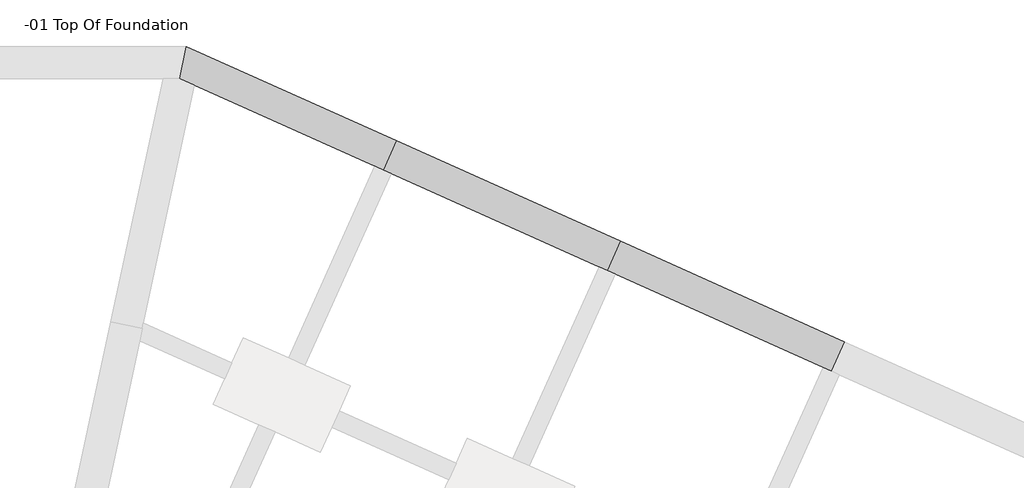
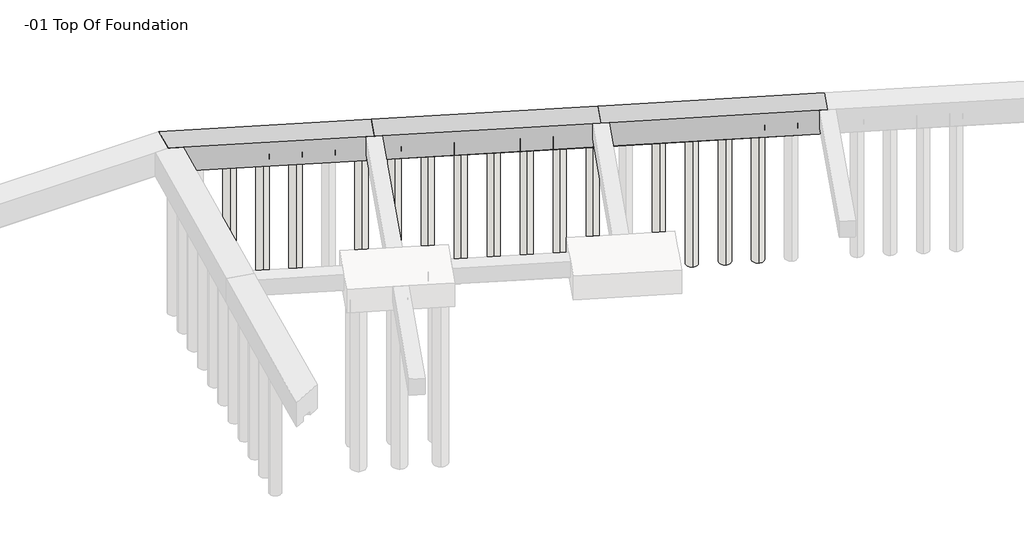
# One storey, part 5 of 6: 15 slabs, 3 beams.
"""IFC4 building model written with IfcOpenShell, lengths in millimetres."""

from ifc_helpers import new_model, si_unit, point, frame, frame_2d, origin, place, context, project, spatial, polyline, circle_curve, trimmed, segment, composite_curve, outline, extrude, element, save
from ifc_brep_helpers import plane_surface, revolved_surface, advanced_brep

model = new_model("IFC4")

# Units and contexts
model_context = context("Model", 3, world=origin())
ifc_project = project(units=[si_unit("LENGTHUNIT", "METRE", prefix="MILLI")], contexts=[model_context])

# Site, building, storey
site = spatial("IfcSite", under=ifc_project)
building = spatial("IfcBuilding", under=site)
storey = spatial("IfcBuildingStorey", under=building, Name="-01 Top Of Foundation", Elevation=-304.8)

# Beams
placement = place(None, origin())
element("IfcBeam", 1, ObjectType="Ring Beam : 16 x 32", at=placement, inside=storey, context=model_context, shape_type="AdvancedBrep", body=[
    advanced_brep(
    [(43479.6634083, -5104.284878, -304.8), (49874.5160912, -7976.8390244, -304.8), (49874.5160912, -7976.8390244, -1193.8), (43479.6634083, -5104.284878, -1193.8), (43104.9824327, -5938.3960976, -304.8), (43336.6799937, -6042.4741463, -304.8), (49268.1375546, -8706.8721951, -304.8), (49499.8351156, -8810.9502439, -304.8), (49864.1082864, -8000.0087805, -1219.2), (43469.2556034, -5127.4546341, -1219.2), (49766.2126509, -8217.9431117, -1219.2), (49712.1399465, -8182.3492054, -1219.2), (49545.6150684, -8553.0653029, -1219.2), (49608.1385559, -8569.8461566, -1219.2), (49510.2429205, -8787.7804878, -1219.2), (43115.3902376, -5915.2263415, -1219.2), (43955.724557, -6042.0984422, -1219.2), (44122.2494351, -5671.3823446, -1219.2), (44887.3729756, -6460.592919, -1219.2), (45053.8978536, -6089.8768214, -1219.2), (45819.0213941, -6879.0873958, -1219.2), (45985.5462722, -6508.3712982, -1219.2), (46750.6698127, -7297.5818725, -1219.2), (46917.1946908, -6926.865775, -1219.2), (47682.3182313, -7716.0763493, -1219.2), (47848.8431093, -7345.3602518, -1219.2), (48613.9666498, -8134.5708261, -1219.2), (48780.4915279, -7763.8547286, -1219.2), (49499.8351156, -8810.9502439, -1193.8), (43104.9824327, -5938.3960976, -1193.8), (49608.1385559, -8569.8461566, -1066.8), (49766.2126509, -8217.9431117, -1066.8), (44122.2494351, -5671.3823446, -1066.8), (43955.724557, -6042.0984422, -1066.8), (45053.8978536, -6089.8768214, -1066.8), (44887.3729756, -6460.592919, -1066.8), (45985.5462722, -6508.3712982, -1066.8), (45819.0213941, -6879.0873958, -1066.8), (46917.1946908, -6926.865775, -1066.8), (46750.6698127, -7297.5818725, -1066.8), (47848.8431093, -7345.3602518, -1066.8), (47682.3182313, -7716.0763493, -1066.8), (48780.4915279, -7763.8547286, -1066.8), (48613.9666498, -8134.5708261, -1066.8), (49545.6150684, -8553.0653029, -1066.8), (49712.1399465, -8182.3492054, -1066.8)],
    [
        (0, 1),
        (1, 2),
        (2, 3),
        (3, 0),
        (0, 4),
        (4, 5),
        (5, 6),
        (6, 7),
        (7, 1),
        (2, 8),
        (8, 9),
        (9, 3),
        (8, 10),
        (10, 11, circle_curve(frame((49628.8775074, -8367.7072541, -1219.2), z_axis=(0.0, 0.0, 1.0), x_axis=(0.4097560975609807, 0.9121951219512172, 0.0)), 203.2)),
        (11, 12, circle_curve(frame((49628.8775074, -8367.7072541, -1219.2), z_axis=(0.0, 0.0, 1.0), x_axis=(0.4097560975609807, 0.9121951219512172, 0.0)), 203.2)),
        (12, 13, circle_curve(frame((49628.8775074, -8367.7072541, -1219.2), z_axis=(0.0, 0.0, 1.0), x_axis=(0.4097560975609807, 0.9121951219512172, 0.0)), 203.2)),
        (13, 14),
        (14, 15),
        (15, 9),
        (16, 17, circle_curve(frame((44038.986996, -5856.7403934, -1219.2), z_axis=(0.0, 0.0, 1.0), x_axis=(0.4097560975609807, 0.9121951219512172, 0.0)), 203.2)),
        (17, 16, circle_curve(frame((44038.986996, -5856.7403934, -1219.2), z_axis=(0.0, 0.0, 1.0), x_axis=(0.4097560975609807, 0.9121951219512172, 0.0)), 203.2)),
        (18, 19, circle_curve(frame((44970.6354146, -6275.2348702, -1219.2), z_axis=(0.0, 0.0, 1.0), x_axis=(0.4097560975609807, 0.9121951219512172, 0.0)), 203.2)),
        (19, 18, circle_curve(frame((44970.6354146, -6275.2348702, -1219.2), z_axis=(0.0, 0.0, 1.0), x_axis=(0.4097560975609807, 0.9121951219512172, 0.0)), 203.2)),
        (20, 21, circle_curve(frame((45902.2838332, -6693.729347, -1219.2), z_axis=(0.0, 0.0, 1.0), x_axis=(0.4097560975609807, 0.9121951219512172, 0.0)), 203.2)),
        (21, 20, circle_curve(frame((45902.2838332, -6693.729347, -1219.2), z_axis=(0.0, 0.0, 1.0), x_axis=(0.4097560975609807, 0.9121951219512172, 0.0)), 203.2)),
        (22, 23, circle_curve(frame((46833.9322517, -7112.2238238, -1219.2), z_axis=(0.0, 0.0, 1.0), x_axis=(0.4097560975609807, 0.9121951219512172, 0.0)), 203.2)),
        (23, 22, circle_curve(frame((46833.9322517, -7112.2238238, -1219.2), z_axis=(0.0, 0.0, 1.0), x_axis=(0.4097560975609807, 0.9121951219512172, 0.0)), 203.2)),
        (24, 25, circle_curve(frame((47765.5806703, -7530.7183006, -1219.2), z_axis=(0.0, 0.0, 1.0), x_axis=(0.4097560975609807, 0.9121951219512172, 0.0)), 203.2)),
        (25, 24, circle_curve(frame((47765.5806703, -7530.7183006, -1219.2), z_axis=(0.0, 0.0, 1.0), x_axis=(0.4097560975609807, 0.9121951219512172, 0.0)), 203.2)),
        (26, 27, circle_curve(frame((48697.2290889, -7949.2127773, -1219.2), z_axis=(0.0, 0.0, 1.0), x_axis=(0.4097560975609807, 0.9121951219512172, 0.0)), 203.2)),
        (27, 26, circle_curve(frame((48697.2290889, -7949.2127773, -1219.2), z_axis=(0.0, 0.0, 1.0), x_axis=(0.4097560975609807, 0.9121951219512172, 0.0)), 203.2)),
        (14, 28),
        (28, 29),
        (29, 15),
        (4, 29),
        (28, 7),
        (13, 30),
        (30, 31),
        (31, 10),
        (32, 33, circle_curve(frame((44038.986996, -5856.7403934, -1066.8), z_axis=(0.0, 0.0, -1.0), x_axis=(0.4097560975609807, 0.9121951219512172, 0.0)), 203.2)),
        (33, 32, circle_curve(frame((44038.986996, -5856.7403934, -1066.8), z_axis=(0.0, 0.0, -1.0), x_axis=(0.4097560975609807, 0.9121951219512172, 0.0)), 203.2)),
        (32, 17),
        (16, 33),
        (34, 35, circle_curve(frame((44970.6354146, -6275.2348702, -1066.8), z_axis=(0.0, 0.0, -1.0), x_axis=(0.4097560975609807, 0.9121951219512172, 0.0)), 203.2)),
        (35, 34, circle_curve(frame((44970.6354146, -6275.2348702, -1066.8), z_axis=(0.0, 0.0, -1.0), x_axis=(0.4097560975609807, 0.9121951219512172, 0.0)), 203.2)),
        (34, 19),
        (18, 35),
        (36, 37, circle_curve(frame((45902.2838332, -6693.729347, -1066.8), z_axis=(0.0, 0.0, -1.0), x_axis=(0.4097560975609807, 0.9121951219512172, 0.0)), 203.2)),
        (37, 36, circle_curve(frame((45902.2838332, -6693.729347, -1066.8), z_axis=(0.0, 0.0, -1.0), x_axis=(0.4097560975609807, 0.9121951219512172, 0.0)), 203.2)),
        (36, 21),
        (20, 37),
        (38, 39, circle_curve(frame((46833.9322517, -7112.2238238, -1066.8), z_axis=(0.0, 0.0, -1.0), x_axis=(0.4097560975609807, 0.9121951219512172, 0.0)), 203.2)),
        (39, 38, circle_curve(frame((46833.9322517, -7112.2238238, -1066.8), z_axis=(0.0, 0.0, -1.0), x_axis=(0.4097560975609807, 0.9121951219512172, 0.0)), 203.2)),
        (38, 23),
        (22, 39),
        (40, 41, circle_curve(frame((47765.5806703, -7530.7183006, -1066.8), z_axis=(0.0, 0.0, -1.0), x_axis=(0.4097560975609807, 0.9121951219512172, 0.0)), 203.2)),
        (41, 40, circle_curve(frame((47765.5806703, -7530.7183006, -1066.8), z_axis=(0.0, 0.0, -1.0), x_axis=(0.4097560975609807, 0.9121951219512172, 0.0)), 203.2)),
        (40, 25),
        (24, 41),
        (42, 43, circle_curve(frame((48697.2290889, -7949.2127773, -1066.8), z_axis=(0.0, 0.0, -1.0), x_axis=(0.4097560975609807, 0.9121951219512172, 0.0)), 203.2)),
        (43, 42, circle_curve(frame((48697.2290889, -7949.2127773, -1066.8), z_axis=(0.0, 0.0, -1.0), x_axis=(0.4097560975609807, 0.9121951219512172, 0.0)), 203.2)),
        (42, 27),
        (26, 43),
        (44, 45, circle_curve(frame((49628.8775074, -8367.7072541, -1066.8), z_axis=(0.0, 0.0, -1.0), x_axis=(0.4097560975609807, 0.9121951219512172, 0.0)), 203.2)),
        (45, 31, circle_curve(frame((49628.8775074, -8367.7072541, -1066.8), z_axis=(0.0, 0.0, -1.0), x_axis=(0.4097560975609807, 0.9121951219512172, 0.0)), 203.2)),
        (30, 44, circle_curve(frame((49628.8775074, -8367.7072541, -1066.8), z_axis=(0.0, 0.0, -1.0), x_axis=(0.4097560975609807, 0.9121951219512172, 0.0)), 203.2)),
        (12, 44),
        (11, 45),
    ],
    [
        plane_surface(frame((43722.9458473, -5213.5668293, -304.8), z_axis=(0.409756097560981, 0.9121951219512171, 0.0), x_axis=(0.9121951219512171, -0.409756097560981, 0.0))),
        plane_surface(frame((43348.2648717, -6047.6780488, -304.8), z_axis=(0.0, 0.0, 1.0), x_axis=(0.9121951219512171, -0.409756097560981, 0.0))),
        plane_surface(frame((43722.9458473, -5213.5668293, -1193.8), z_axis=(0.2897413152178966, 0.6450193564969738, -0.707106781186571), x_axis=(0.9121951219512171, -0.409756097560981, 0.0))),
        plane_surface(frame((43712.5380425, -5236.7365854, -1219.2), z_axis=(0.0, 0.0, -1.0), x_axis=(0.9121951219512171, -0.409756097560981, 0.0))),
        plane_surface(frame((43358.6726766, -6024.5082927, -1219.2), z_axis=(-0.28974131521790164, -0.6450193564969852, -0.7071067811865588), x_axis=(0.9121951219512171, -0.409756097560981, 0.0))),
        plane_surface(frame((43348.2648717, -6047.6780488, -1193.8), z_axis=(-0.409756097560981, -0.9121951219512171, 0.0), x_axis=(0.9121951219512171, -0.409756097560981, 0.0))),
        plane_surface(frame((49687.1756034, -8393.8946341, -304.8), z_axis=(0.9121951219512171, -0.409756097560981, 0.0), x_axis=(0.409756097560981, 0.9121951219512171, 0.0))),
        plane_surface(frame((43292.3229205, -5521.3404878, -304.8), z_axis=(-0.9121951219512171, 0.409756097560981, 0.0), x_axis=(0.409756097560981, 0.9121951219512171, 0.0))),
        plane_surface(frame((44122.2494351, -5671.3823446, -1066.8), z_axis=(0.0, 0.0, -1.0), x_axis=(-0.9121951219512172, 0.4097560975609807, 0.0))),
        revolved_surface(polyline([(44122.249435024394, -5671.382344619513, -1066.8000000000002), (44122.249435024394, -5671.382344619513, -1219.1999999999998)]), (44038.986996, -5856.7403934, -6096.0), (0.0, 0.0, 1.0)),
        plane_surface(frame((45053.8978536, -6089.8768214, -1066.8), z_axis=(0.0, 0.0, -1.0), x_axis=(-0.9121951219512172, 0.4097560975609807, 0.0))),
        revolved_surface(polyline([(45053.897853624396, -6089.876821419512, -1066.8000000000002), (45053.897853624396, -6089.876821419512, -1219.1999999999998)]), (44970.6354146, -6275.2348702, -6096.0), (0.0, 0.0, 1.0)),
        plane_surface(frame((45985.5462722, -6508.3712982, -1066.8), z_axis=(0.0, 0.0, -1.0), x_axis=(-0.9121951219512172, 0.4097560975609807, 0.0))),
        revolved_surface(polyline([(45985.5462722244, -6508.371298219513, -1066.8000000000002), (45985.5462722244, -6508.371298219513, -1219.1999999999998)]), (45902.2838332, -6693.729347, -6096.0), (0.0, 0.0, 1.0)),
        plane_surface(frame((46917.1946908, -6926.865775, -1066.8), z_axis=(0.0, 0.0, -1.0), x_axis=(-0.9121951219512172, 0.4097560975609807, 0.0))),
        revolved_surface(polyline([(46917.19469072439, -6926.8657750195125, -1066.8000000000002), (46917.19469072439, -6926.8657750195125, -1219.1999999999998)]), (46833.9322517, -7112.2238238, -6096.0), (0.0, 0.0, 1.0)),
        plane_surface(frame((47848.8431093, -7345.3602518, -1066.8), z_axis=(0.0, 0.0, -1.0), x_axis=(-0.9121951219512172, 0.4097560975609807, 0.0))),
        revolved_surface(polyline([(47848.84310932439, -7345.360251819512, -1066.8000000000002), (47848.84310932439, -7345.360251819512, -1219.1999999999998)]), (47765.5806703, -7530.7183006, -6096.0), (0.0, 0.0, 1.0)),
        plane_surface(frame((48780.4915279, -7763.8547286, -1066.8), z_axis=(0.0, 0.0, -1.0), x_axis=(-0.9121951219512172, 0.4097560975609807, 0.0))),
        revolved_surface(polyline([(48780.491527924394, -7763.854728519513, -1066.8000000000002), (48780.491527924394, -7763.854728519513, -1219.1999999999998)]), (48697.2290889, -7949.2127773, -6096.0), (0.0, 0.0, 1.0)),
        plane_surface(frame((49712.1399465, -8182.3492054, -1066.8), z_axis=(0.0, 0.0, -1.0), x_axis=(-0.9121951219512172, 0.4097560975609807, 0.0))),
        revolved_surface(polyline([(49712.139946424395, -8182.349205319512, -1066.8000000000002), (49712.139946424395, -8182.349205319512, -1219.1999999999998)]), (49628.8775074, -8367.7072541, -6096.0), (0.0, 0.0, 1.0)),
    ],
    [
        (0, [[1, 2, 3, 4]]),
        (1, [[-1, 5, 6, 7, 8, 9]]),
        (2, [[-3, 10, 11, 12]]),
        (3, [[-11, 13, 14, 15, 16, 17, 18, 19], [20, 21], [22, 23], [24, 25], [26, 27], [28, 29], [30, 31]]),
        (4, [[-18, 32, 33, 34]]),
        (5, [[-8, -7, -6, 35, -33, 36]]),
        (6, [[-36, -32, -17, 37, 38, 39, -13, -10, -2, -9]]),
        (7, [[-5, -4, -12, -19, -34, -35]]),
        (8, [[40, 41]]),
        (9, [[-40, 42, -20, 43]]),
        (9, [[-41, -43, -21, -42]]),
        (10, [[44, 45]]),
        (11, [[-44, 46, -22, 47]]),
        (11, [[-45, -47, -23, -46]]),
        (12, [[48, 49]]),
        (13, [[-48, 50, -24, 51]]),
        (13, [[-49, -51, -25, -50]]),
        (14, [[52, 53]]),
        (15, [[-52, 54, -26, 55]]),
        (15, [[-53, -55, -27, -54]]),
        (16, [[56, 57]]),
        (17, [[-56, 58, -28, 59]]),
        (17, [[-57, -59, -29, -58]]),
        (18, [[60, 61]]),
        (19, [[-60, 62, -30, 63]]),
        (19, [[-61, -63, -31, -62]]),
        (20, [[64, 65, -38, 66]]),
        (21, [[-66, -37, -16, 67]]),
        (21, [[-64, -67, -15, 68]]),
        (21, [[-65, -68, -14, -39]]),
    ],
),
])
element("IfcBeam", 2, ObjectType="Ring Beam : 16 x 32", at=placement, inside=storey, context=model_context, shape_type="AdvancedBrep", body=[
    advanced_brep(
    [(37084.8107254, -2231.7307317, -304.8), (43479.6634083, -5104.284878, -304.8), (43479.6634083, -5104.284878, -1193.8), (37084.8107254, -2231.7307317, -1193.8), (36710.1297498, -3065.8419512, -304.8), (36941.8273107, -3169.92, -304.8), (42873.2848717, -5834.3180488, -304.8), (43104.9824327, -5938.3960976, -304.8), (43469.2556034, -5127.4546341, -1219.2), (37074.4029205, -2254.9004878, -1219.2), (43115.3902376, -5915.2263415, -1219.2), (36720.5375546, -3042.6721951, -1219.2), (37434.185627, -3112.6371046, -1219.2), (37600.7105051, -2741.9210071, -1219.2), (38365.8340456, -3531.1315814, -1219.2), (38532.3589236, -3160.4154839, -1219.2), (39297.4824642, -3949.6260582, -1219.2), (39464.0073422, -3578.9099607, -1219.2), (40229.1308827, -4368.120535, -1219.2), (40395.6557608, -3997.4044375, -1219.2), (41160.7793013, -4786.6150118, -1219.2), (41327.3041794, -4415.8989142, -1219.2), (42092.4277199, -5205.1094886, -1219.2), (42258.9525979, -4834.393391, -1219.2), (43104.9824327, -5938.3960976, -1193.8), (36710.1297498, -3065.8419512, -1193.8), (37600.7105051, -2741.9210071, -1066.8), (37434.185627, -3112.6371046, -1066.8), (38532.3589236, -3160.4154839, -1066.8), (38365.8340456, -3531.1315814, -1066.8), (39464.0073422, -3578.9099607, -1066.8), (39297.4824642, -3949.6260582, -1066.8), (40395.6557608, -3997.4044375, -1066.8), (40229.1308827, -4368.120535, -1066.8), (41327.3041794, -4415.8989142, -1066.8), (41160.7793013, -4786.6150118, -1066.8), (42258.9525979, -4834.393391, -1066.8), (42092.4277199, -5205.1094886, -1066.8)],
    [
        (0, 1),
        (1, 2),
        (2, 3),
        (3, 0),
        (0, 4),
        (4, 5),
        (5, 6),
        (6, 7),
        (7, 1),
        (2, 8),
        (8, 9),
        (9, 3),
        (8, 10),
        (10, 11),
        (11, 9),
        (12, 13, circle_curve(frame((37517.4480661, -2927.2790559, -1219.2), z_axis=(0.0, 0.0, 1.0), x_axis=(0.4097560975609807, 0.9121951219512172, 0.0)), 203.2)),
        (13, 12, circle_curve(frame((37517.4480661, -2927.2790559, -1219.2), z_axis=(0.0, 0.0, 1.0), x_axis=(0.4097560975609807, 0.9121951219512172, 0.0)), 203.2)),
        (14, 15, circle_curve(frame((38449.0964846, -3345.7735327, -1219.2), z_axis=(0.0, 0.0, 1.0), x_axis=(0.4097560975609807, 0.9121951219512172, 0.0)), 203.2)),
        (15, 14, circle_curve(frame((38449.0964846, -3345.7735327, -1219.2), z_axis=(0.0, 0.0, 1.0), x_axis=(0.4097560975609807, 0.9121951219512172, 0.0)), 203.2)),
        (16, 17, circle_curve(frame((39380.7449032, -3764.2680094, -1219.2), z_axis=(0.0, 0.0, 1.0), x_axis=(0.4097560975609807, 0.9121951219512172, 0.0)), 203.2)),
        (17, 16, circle_curve(frame((39380.7449032, -3764.2680094, -1219.2), z_axis=(0.0, 0.0, 1.0), x_axis=(0.4097560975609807, 0.9121951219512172, 0.0)), 203.2)),
        (18, 19, circle_curve(frame((40312.3933218, -4182.7624862, -1219.2), z_axis=(0.0, 0.0, 1.0), x_axis=(0.4097560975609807, 0.9121951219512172, 0.0)), 203.2)),
        (19, 18, circle_curve(frame((40312.3933218, -4182.7624862, -1219.2), z_axis=(0.0, 0.0, 1.0), x_axis=(0.4097560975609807, 0.9121951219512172, 0.0)), 203.2)),
        (20, 21, circle_curve(frame((41244.0417403, -4601.256963, -1219.2), z_axis=(0.0, 0.0, 1.0), x_axis=(0.4097560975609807, 0.9121951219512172, 0.0)), 203.2)),
        (21, 20, circle_curve(frame((41244.0417403, -4601.256963, -1219.2), z_axis=(0.0, 0.0, 1.0), x_axis=(0.4097560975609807, 0.9121951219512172, 0.0)), 203.2)),
        (22, 23, circle_curve(frame((42175.6901589, -5019.7514398, -1219.2), z_axis=(0.0, 0.0, 1.0), x_axis=(0.4097560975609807, 0.9121951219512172, 0.0)), 203.2)),
        (23, 22, circle_curve(frame((42175.6901589, -5019.7514398, -1219.2), z_axis=(0.0, 0.0, 1.0), x_axis=(0.4097560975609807, 0.9121951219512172, 0.0)), 203.2)),
        (10, 24),
        (24, 25),
        (25, 11),
        (4, 25),
        (24, 7),
        (26, 27, circle_curve(frame((37517.4480661, -2927.2790559, -1066.8), z_axis=(0.0, 0.0, -1.0), x_axis=(0.4097560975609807, 0.9121951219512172, 0.0)), 203.2)),
        (27, 26, circle_curve(frame((37517.4480661, -2927.2790559, -1066.8), z_axis=(0.0, 0.0, -1.0), x_axis=(0.4097560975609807, 0.9121951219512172, 0.0)), 203.2)),
        (26, 13),
        (12, 27),
        (28, 29, circle_curve(frame((38449.0964846, -3345.7735327, -1066.8), z_axis=(0.0, 0.0, -1.0), x_axis=(0.4097560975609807, 0.9121951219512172, 0.0)), 203.2)),
        (29, 28, circle_curve(frame((38449.0964846, -3345.7735327, -1066.8), z_axis=(0.0, 0.0, -1.0), x_axis=(0.4097560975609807, 0.9121951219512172, 0.0)), 203.2)),
        (28, 15),
        (14, 29),
        (30, 31, circle_curve(frame((39380.7449032, -3764.2680094, -1066.8), z_axis=(0.0, 0.0, -1.0), x_axis=(0.4097560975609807, 0.9121951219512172, 0.0)), 203.2)),
        (31, 30, circle_curve(frame((39380.7449032, -3764.2680094, -1066.8), z_axis=(0.0, 0.0, -1.0), x_axis=(0.4097560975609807, 0.9121951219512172, 0.0)), 203.2)),
        (30, 17),
        (16, 31),
        (32, 33, circle_curve(frame((40312.3933218, -4182.7624862, -1066.8), z_axis=(0.0, 0.0, -1.0), x_axis=(0.4097560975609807, 0.9121951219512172, 0.0)), 203.2)),
        (33, 32, circle_curve(frame((40312.3933218, -4182.7624862, -1066.8), z_axis=(0.0, 0.0, -1.0), x_axis=(0.4097560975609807, 0.9121951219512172, 0.0)), 203.2)),
        (32, 19),
        (18, 33),
        (34, 35, circle_curve(frame((41244.0417403, -4601.256963, -1066.8), z_axis=(0.0, 0.0, -1.0), x_axis=(0.4097560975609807, 0.9121951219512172, 0.0)), 203.2)),
        (35, 34, circle_curve(frame((41244.0417403, -4601.256963, -1066.8), z_axis=(0.0, 0.0, -1.0), x_axis=(0.4097560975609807, 0.9121951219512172, 0.0)), 203.2)),
        (34, 21),
        (20, 35),
        (36, 37, circle_curve(frame((42175.6901589, -5019.7514398, -1066.8), z_axis=(0.0, 0.0, -1.0), x_axis=(0.4097560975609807, 0.9121951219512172, 0.0)), 203.2)),
        (37, 36, circle_curve(frame((42175.6901589, -5019.7514398, -1066.8), z_axis=(0.0, 0.0, -1.0), x_axis=(0.4097560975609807, 0.9121951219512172, 0.0)), 203.2)),
        (36, 23),
        (22, 37),
    ],
    [
        plane_surface(frame((37328.0931644, -2341.0126829, -304.8), z_axis=(0.4097560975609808, 0.9121951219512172, 0.0), x_axis=(0.9121951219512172, -0.4097560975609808, 0.0))),
        plane_surface(frame((36953.4121888, -3175.1239024, -304.8), z_axis=(0.0, 0.0, 1.0), x_axis=(0.9121951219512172, -0.4097560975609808, 0.0))),
        plane_surface(frame((37328.0931644, -2341.0126829, -1193.8), z_axis=(0.2897413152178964, 0.645019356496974, -0.7071067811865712), x_axis=(0.9121951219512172, -0.4097560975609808, 0.0))),
        plane_surface(frame((37317.6853595, -2364.182439, -1219.2), z_axis=(0.0, 0.0, -1.0), x_axis=(0.9121951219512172, -0.4097560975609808, 0.0))),
        plane_surface(frame((36963.8199937, -3151.9541463, -1219.2), z_axis=(-0.2897413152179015, -0.645019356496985, -0.7071067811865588), x_axis=(0.9121951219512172, -0.4097560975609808, 0.0))),
        plane_surface(frame((36953.4121888, -3175.1239024, -1193.8), z_axis=(-0.4097560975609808, -0.9121951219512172, 0.0), x_axis=(0.9121951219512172, -0.4097560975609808, 0.0))),
        plane_surface(frame((43292.3229205, -5521.3404878, -304.8), z_axis=(0.9121951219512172, -0.40975609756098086, 0.0), x_axis=(0.40975609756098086, 0.9121951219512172, 0.0))),
        plane_surface(frame((36897.4702376, -2648.7863415, -304.8), z_axis=(-0.9121951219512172, 0.40975609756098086, 0.0), x_axis=(0.40975609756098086, 0.9121951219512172, 0.0))),
        plane_surface(frame((37600.7105051, -2741.9210071, -1066.8), z_axis=(0.0, 0.0, -1.0), x_axis=(-0.9121951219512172, 0.4097560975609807, 0.0))),
        revolved_surface(polyline([(37600.71050512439, -2741.9210071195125, -1066.8000000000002), (37600.71050512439, -2741.9210071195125, -1219.1999999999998)]), (37517.4480661, -2927.2790559, -6096.0), (0.0, 0.0, 1.0)),
        plane_surface(frame((38532.3589236, -3160.4154839, -1066.8), z_axis=(0.0, 0.0, -1.0), x_axis=(-0.9121951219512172, 0.4097560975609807, 0.0))),
        revolved_surface(polyline([(38532.35892362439, -3160.4154839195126, -1066.8000000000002), (38532.35892362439, -3160.4154839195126, -1219.1999999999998)]), (38449.0964846, -3345.7735327, -6096.0), (0.0, 0.0, 1.0)),
        plane_surface(frame((39464.0073422, -3578.9099607, -1066.8), z_axis=(0.0, 0.0, -1.0), x_axis=(-0.9121951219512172, 0.4097560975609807, 0.0))),
        revolved_surface(polyline([(39464.007342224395, -3578.9099606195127, -1066.8000000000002), (39464.007342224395, -3578.9099606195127, -1219.1999999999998)]), (39380.7449032, -3764.2680094, -6096.0), (0.0, 0.0, 1.0)),
        plane_surface(frame((40395.6557608, -3997.4044375, -1066.8), z_axis=(0.0, 0.0, -1.0), x_axis=(-0.9121951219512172, 0.4097560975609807, 0.0))),
        revolved_surface(polyline([(40395.6557608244, -3997.4044374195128, -1066.8000000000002), (40395.6557608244, -3997.4044374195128, -1219.1999999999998)]), (40312.3933218, -4182.7624862, -6096.0), (0.0, 0.0, 1.0)),
        plane_surface(frame((41327.3041794, -4415.8989142, -1066.8), z_axis=(0.0, 0.0, -1.0), x_axis=(-0.9121951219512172, 0.4097560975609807, 0.0))),
        revolved_surface(polyline([(41327.3041793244, -4415.898914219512, -1066.8000000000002), (41327.3041793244, -4415.898914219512, -1219.1999999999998)]), (41244.0417403, -4601.256963, -6096.0), (0.0, 0.0, 1.0)),
        plane_surface(frame((42258.9525979, -4834.393391, -1066.8), z_axis=(0.0, 0.0, -1.0), x_axis=(-0.9121951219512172, 0.4097560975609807, 0.0))),
        revolved_surface(polyline([(42258.95259792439, -4834.393391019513, -1066.8000000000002), (42258.95259792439, -4834.393391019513, -1219.1999999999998)]), (42175.6901589, -5019.7514398, -6096.0), (0.0, 0.0, 1.0)),
    ],
    [
        (0, [[1, 2, 3, 4]]),
        (1, [[-1, 5, 6, 7, 8, 9]]),
        (2, [[-3, 10, 11, 12]]),
        (3, [[-11, 13, 14, 15], [16, 17], [18, 19], [20, 21], [22, 23], [24, 25], [26, 27]]),
        (4, [[-14, 28, 29, 30]]),
        (5, [[-8, -7, -6, 31, -29, 32]]),
        (6, [[-32, -28, -13, -10, -2, -9]]),
        (7, [[-5, -4, -12, -15, -30, -31]]),
        (8, [[33, 34]]),
        (9, [[-33, 35, -16, 36]]),
        (9, [[-34, -36, -17, -35]]),
        (10, [[37, 38]]),
        (11, [[-37, 39, -18, 40]]),
        (11, [[-38, -40, -19, -39]]),
        (12, [[41, 42]]),
        (13, [[-41, 43, -20, 44]]),
        (13, [[-42, -44, -21, -43]]),
        (14, [[45, 46]]),
        (15, [[-45, 47, -22, 48]]),
        (15, [[-46, -48, -23, -47]]),
        (16, [[49, 50]]),
        (17, [[-49, 51, -24, 52]]),
        (17, [[-50, -52, -25, -51]]),
        (18, [[53, 54]]),
        (19, [[-53, 55, -26, 56]]),
        (19, [[-54, -56, -27, -55]]),
    ],
),
])
element("IfcBeam", 3, ObjectType="Ring Beam : 16 x 32", at=placement, inside=storey, context=model_context, shape_type="AdvancedBrep", body=[
    advanced_brep(
    [(31098.7387393, 457.2, -304.8), (37084.8107254, -2231.7307317, -304.8), (37084.8107254, -2231.7307317, -1193.8), (31098.7387393, 457.2, -1193.8), (30902.7958822, -457.2, -304.8), (31329.3192817, -648.7933987, -304.8), (36478.4321888, -2961.7639024, -304.8), (36710.1297498, -3065.8419512, -304.8), (37074.4029205, -2254.9004878, -1219.2), (31093.2958822, 431.8, -1219.2), (36720.5375546, -3042.6721951, -1219.2), (31311.0663945, -612.749321, -1219.2), (30908.2387393, -431.8, -1219.2), (30958.1909999, -198.6894505, -1219.2), (31203.9673107, 0.0, -1219.2), (31043.3436216, 198.6894505, -1219.2), (31844.2951156, -601.6702439, -1219.2), (32010.8199937, -230.9541463, -1219.2), (32775.9435342, -1020.1647207, -1219.2), (32942.4684122, -649.4486231, -1219.2), (33707.5919528, -1438.6591975, -1219.2), (33874.1168308, -1067.9430999, -1219.2), (34639.2403713, -1857.1536743, -1219.2), (34805.7652494, -1486.4375767, -1219.2), (35570.8887899, -2275.6481511, -1219.2), (35737.4136679, -1904.9320535, -1219.2), (36502.5372085, -2694.1426279, -1219.2), (36669.0620865, -2323.4265303, -1219.2), (36710.1297498, -3065.8419512, -1193.8), (31329.3192817, -648.7933987, -1193.8), (30902.7958822, -457.2, -1193.8), (31043.3436216, 198.6894505, -1066.8), (30958.1909999, -198.6894505, -1066.8), (31203.9673107, 0.0, -1066.8), (31844.2951156, -601.6702439, -1066.8), (32010.8199937, -230.9541463, -1066.8), (32942.4684122, -649.4486231, -1066.8), (32775.9435342, -1020.1647207, -1066.8), (33874.1168308, -1067.9430999, -1066.8), (33707.5919528, -1438.6591975, -1066.8), (34805.7652494, -1486.4375767, -1066.8), (34639.2403713, -1857.1536743, -1066.8), (35737.4136679, -1904.9320535, -1066.8), (35570.8887899, -2275.6481511, -1066.8), (36669.0620865, -2323.4265303, -1066.8), (36502.5372085, -2694.1426279, -1066.8)],
    [
        (0, 1),
        (1, 2),
        (2, 3),
        (3, 0),
        (0, 4),
        (4, 5),
        (5, 6),
        (6, 7),
        (7, 1),
        (2, 8),
        (8, 9),
        (9, 3),
        (8, 10),
        (10, 11),
        (11, 12),
        (12, 13),
        (13, 14, circle_curve(frame((31000.7673107, 0.0, -1219.2), z_axis=(0.0, 0.0, 1.0), x_axis=(1.0, 0.0, 0.0)), 203.2)),
        (14, 15, circle_curve(frame((31000.7673107, 0.0, -1219.2), z_axis=(0.0, 0.0, 1.0), x_axis=(1.0, 0.0, 0.0)), 203.2)),
        (15, 9),
        (16, 17, circle_curve(frame((31927.5575546, -416.3121951, -1219.2), z_axis=(0.0, 0.0, 1.0), x_axis=(0.4097560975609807, 0.9121951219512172, 0.0)), 203.2)),
        (17, 16, circle_curve(frame((31927.5575546, -416.3121951, -1219.2), z_axis=(0.0, 0.0, 1.0), x_axis=(0.4097560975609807, 0.9121951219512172, 0.0)), 203.2)),
        (18, 19, circle_curve(frame((32859.2059732, -834.8066719, -1219.2), z_axis=(0.0, 0.0, 1.0), x_axis=(0.4097560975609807, 0.9121951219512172, 0.0)), 203.2)),
        (19, 18, circle_curve(frame((32859.2059732, -834.8066719, -1219.2), z_axis=(0.0, 0.0, 1.0), x_axis=(0.4097560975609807, 0.9121951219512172, 0.0)), 203.2)),
        (20, 21, circle_curve(frame((33790.8543918, -1253.3011487, -1219.2), z_axis=(0.0, 0.0, 1.0), x_axis=(0.4097560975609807, 0.9121951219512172, 0.0)), 203.2)),
        (21, 20, circle_curve(frame((33790.8543918, -1253.3011487, -1219.2), z_axis=(0.0, 0.0, 1.0), x_axis=(0.4097560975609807, 0.9121951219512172, 0.0)), 203.2)),
        (22, 23, circle_curve(frame((34722.5028104, -1671.7956255, -1219.2), z_axis=(0.0, 0.0, 1.0), x_axis=(0.4097560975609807, 0.9121951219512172, 0.0)), 203.2)),
        (23, 22, circle_curve(frame((34722.5028104, -1671.7956255, -1219.2), z_axis=(0.0, 0.0, 1.0), x_axis=(0.4097560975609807, 0.9121951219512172, 0.0)), 203.2)),
        (24, 25, circle_curve(frame((35654.1512289, -2090.2901023, -1219.2), z_axis=(0.0, 0.0, 1.0), x_axis=(0.4097560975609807, 0.9121951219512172, 0.0)), 203.2)),
        (25, 24, circle_curve(frame((35654.1512289, -2090.2901023, -1219.2), z_axis=(0.0, 0.0, 1.0), x_axis=(0.4097560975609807, 0.9121951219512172, 0.0)), 203.2)),
        (26, 27, circle_curve(frame((36585.7996475, -2508.7845791, -1219.2), z_axis=(0.0, 0.0, 1.0), x_axis=(0.4097560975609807, 0.9121951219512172, 0.0)), 203.2)),
        (27, 26, circle_curve(frame((36585.7996475, -2508.7845791, -1219.2), z_axis=(0.0, 0.0, 1.0), x_axis=(0.4097560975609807, 0.9121951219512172, 0.0)), 203.2)),
        (10, 28),
        (28, 29),
        (29, 30),
        (30, 12),
        (4, 30),
        (28, 7),
        (15, 31),
        (31, 32),
        (32, 13),
        (31, 33, circle_curve(frame((31000.7673107, 0.0, -1066.8), z_axis=(0.0, 0.0, -1.0), x_axis=(1.0, 0.0, 0.0)), 203.2)),
        (33, 32, circle_curve(frame((31000.7673107, 0.0, -1066.8), z_axis=(0.0, 0.0, -1.0), x_axis=(1.0, 0.0, 0.0)), 203.2)),
        (33, 14),
        (34, 35, circle_curve(frame((31927.5575546, -416.3121951, -1066.8), z_axis=(0.0, 0.0, 1.0), x_axis=(0.4097560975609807, 0.9121951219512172, 0.0)), 203.2)),
        (35, 17),
        (16, 34),
        (35, 34, circle_curve(frame((31927.5575546, -416.3121951, -1066.8), z_axis=(0.0, 0.0, 1.0), x_axis=(0.4097560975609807, 0.9121951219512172, 0.0)), 203.2)),
        (36, 37, circle_curve(frame((32859.2059732, -834.8066719, -1066.8), z_axis=(0.0, 0.0, -1.0), x_axis=(0.4097560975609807, 0.9121951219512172, 0.0)), 203.2)),
        (37, 36, circle_curve(frame((32859.2059732, -834.8066719, -1066.8), z_axis=(0.0, 0.0, -1.0), x_axis=(0.4097560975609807, 0.9121951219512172, 0.0)), 203.2)),
        (36, 19),
        (18, 37),
        (38, 39, circle_curve(frame((33790.8543918, -1253.3011487, -1066.8), z_axis=(0.0, 0.0, -1.0), x_axis=(0.4097560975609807, 0.9121951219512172, 0.0)), 203.2)),
        (39, 38, circle_curve(frame((33790.8543918, -1253.3011487, -1066.8), z_axis=(0.0, 0.0, -1.0), x_axis=(0.4097560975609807, 0.9121951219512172, 0.0)), 203.2)),
        (38, 21),
        (20, 39),
        (40, 41, circle_curve(frame((34722.5028104, -1671.7956255, -1066.8), z_axis=(0.0, 0.0, -1.0), x_axis=(0.4097560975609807, 0.9121951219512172, 0.0)), 203.2)),
        (41, 40, circle_curve(frame((34722.5028104, -1671.7956255, -1066.8), z_axis=(0.0, 0.0, -1.0), x_axis=(0.4097560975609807, 0.9121951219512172, 0.0)), 203.2)),
        (40, 23),
        (22, 41),
        (42, 43, circle_curve(frame((35654.1512289, -2090.2901023, -1066.8), z_axis=(0.0, 0.0, -1.0), x_axis=(0.4097560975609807, 0.9121951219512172, 0.0)), 203.2)),
        (43, 42, circle_curve(frame((35654.1512289, -2090.2901023, -1066.8), z_axis=(0.0, 0.0, -1.0), x_axis=(0.4097560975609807, 0.9121951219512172, 0.0)), 203.2)),
        (42, 25),
        (24, 43),
        (44, 45, circle_curve(frame((36585.7996475, -2508.7845791, -1066.8), z_axis=(0.0, 0.0, -1.0), x_axis=(0.4097560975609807, 0.9121951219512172, 0.0)), 203.2)),
        (45, 44, circle_curve(frame((36585.7996475, -2508.7845791, -1066.8), z_axis=(0.0, 0.0, -1.0), x_axis=(0.4097560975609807, 0.9121951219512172, 0.0)), 203.2)),
        (44, 27),
        (26, 45),
    ],
    [
        plane_surface(frame((31715.5851354, 180.1139183, -304.8), z_axis=(0.40975609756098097, 0.9121951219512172, 0.0), x_axis=(0.9121951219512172, -0.40975609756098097, 0.0))),
        plane_surface(frame((31340.9041598, -653.9973012, -304.8), z_axis=(0.0, 0.0, 1.0000000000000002), x_axis=(0.9121951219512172, -0.40975609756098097, 0.0))),
        plane_surface(frame((31715.5851354, 180.1139183, -1193.8), z_axis=(0.28974131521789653, 0.6450193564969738, -0.7071067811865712), x_axis=(0.9121951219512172, -0.40975609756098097, 0.0))),
        plane_surface(frame((31705.1773305, 156.9441622, -1219.2), z_axis=(0.0, 0.0, -1.0000000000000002), x_axis=(0.9121951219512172, -0.40975609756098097, 0.0))),
        plane_surface(frame((31351.3119647, -630.8275451, -1219.2), z_axis=(-0.2897413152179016, -0.645019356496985, -0.7071067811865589), x_axis=(0.9121951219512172, -0.40975609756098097, 0.0))),
        plane_surface(frame((31340.9041598, -653.9973012, -1193.8), z_axis=(-0.40975609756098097, -0.9121951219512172, 0.0), x_axis=(0.9121951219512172, -0.40975609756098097, 0.0))),
        plane_surface(frame((36897.4702376, -2648.7863415, -304.8), z_axis=(0.9121951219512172, -0.4097560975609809, 0.0), x_axis=(0.4097560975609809, 0.9121951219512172, 0.0))),
        plane_surface(frame((30902.7958822, -457.2, -304.8), z_axis=(-0.977802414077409, 0.20952908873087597, 0.0), x_axis=(0.20952908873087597, 0.977802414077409, 0.0))),
        plane_surface(frame((31203.9673107, 0.0, -1066.8), z_axis=(0.0, 0.0, -1.0), x_axis=(0.0, 1.0, 0.0))),
        revolved_surface(polyline([(31203.9673107, 0.0, -1066.8000000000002), (31203.9673107, 0.0, -1219.1999999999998)]), (31000.7673107, 0.0, -6096.0), (0.0, 0.0, 1.0)),
        revolved_surface(polyline([(32010.81999362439, -230.95414631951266, -1066.8000000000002), (32010.81999362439, -230.95414631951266, -1219.1999999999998)]), (31927.5575546, -416.3121951, -6096.0), (0.0, 0.0, 1.0)),
        plane_surface(frame((32010.8199937, -230.9541463, -1066.8), z_axis=(0.0, 0.0, -1.0), x_axis=(-0.9121951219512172, 0.4097560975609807, 0.0))),
        plane_surface(frame((32942.4684122, -649.4486231, -1066.8), z_axis=(0.0, 0.0, -1.0), x_axis=(-0.9121951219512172, 0.4097560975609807, 0.0))),
        revolved_surface(polyline([(32942.46841222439, -649.4486231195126, -1066.8000000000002), (32942.46841222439, -649.4486231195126, -1219.1999999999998)]), (32859.2059732, -834.8066719, -6096.0), (0.0, 0.0, 1.0)),
        plane_surface(frame((33874.1168308, -1067.9430999, -1066.8), z_axis=(0.0, 0.0, -1.0), x_axis=(-0.9121951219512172, 0.4097560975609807, 0.0))),
        revolved_surface(polyline([(33874.116830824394, -1067.9430999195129, -1066.8000000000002), (33874.116830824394, -1067.9430999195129, -1219.1999999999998)]), (33790.8543918, -1253.3011487, -6096.0), (0.0, 0.0, 1.0)),
        plane_surface(frame((34805.7652494, -1486.4375767, -1066.8), z_axis=(0.0, 0.0, -1.0), x_axis=(-0.9121951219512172, 0.4097560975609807, 0.0))),
        revolved_surface(polyline([(34805.765249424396, -1486.4375767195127, -1066.8000000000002), (34805.765249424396, -1486.4375767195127, -1219.1999999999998)]), (34722.5028104, -1671.7956255, -6096.0), (0.0, 0.0, 1.0)),
        plane_surface(frame((35737.4136679, -1904.9320535, -1066.8), z_axis=(0.0, 0.0, -1.0), x_axis=(-0.9121951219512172, 0.4097560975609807, 0.0))),
        revolved_surface(polyline([(35737.4136679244, -1904.9320535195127, -1066.8000000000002), (35737.4136679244, -1904.9320535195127, -1219.1999999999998)]), (35654.1512289, -2090.2901023, -6096.0), (0.0, 0.0, 1.0)),
        plane_surface(frame((36669.0620865, -2323.4265303, -1066.8), z_axis=(0.0, 0.0, -1.0), x_axis=(-0.9121951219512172, 0.4097560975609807, 0.0))),
        revolved_surface(polyline([(36669.0620865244, -2323.4265303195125, -1066.8000000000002), (36669.0620865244, -2323.4265303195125, -1219.1999999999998)]), (36585.7996475, -2508.7845791, -6096.0), (0.0, 0.0, 1.0)),
    ],
    [
        (0, [[1, 2, 3, 4]]),
        (1, [[-1, 5, 6, 7, 8, 9]]),
        (2, [[-3, 10, 11, 12]]),
        (3, [[-11, 13, 14, 15, 16, 17, 18, 19], [20, 21], [22, 23], [24, 25], [26, 27], [28, 29], [30, 31]]),
        (4, [[-15, -14, 32, 33, 34, 35]]),
        (5, [[-8, -7, -6, 36, -34, -33, 37]]),
        (6, [[-37, -32, -13, -10, -2, -9]]),
        (7, [[-5, -4, -12, -19, 38, 39, 40, -16, -35, -36]]),
        (8, [[41, 42, -39]]),
        (9, [[-42, 43, -17, -40]]),
        (9, [[-41, -38, -18, -43]]),
        (10, [[44, 45, -20, 46]]),
        (10, [[47, -46, -21, -45]]),
        (11, [[-44, -47]]),
        (12, [[48, 49]]),
        (13, [[-48, 50, -22, 51]]),
        (13, [[-49, -51, -23, -50]]),
        (14, [[52, 53]]),
        (15, [[-52, 54, -24, 55]]),
        (15, [[-53, -55, -25, -54]]),
        (16, [[56, 57]]),
        (17, [[-56, 58, -26, 59]]),
        (17, [[-57, -59, -27, -58]]),
        (18, [[60, 61]]),
        (19, [[-60, 62, -28, 63]]),
        (19, [[-61, -63, -29, -62]]),
        (20, [[64, 65]]),
        (21, [[-64, 66, -30, 67]]),
        (21, [[-65, -67, -31, -66]]),
    ],
),
])

# Slabs
element("IfcSlab", 4, ObjectType="Round In Situ Concrete Pile : 16\" Diameter", at=placement, inside=storey, context=model_context, shape_type="SweptSolid", body=[
    extrude(outline(composite_curve([segment(trimmed(circle_curve(frame_2d((32859.2059732, -834.8066719)), 203.2), [point((32775.9435342, -1020.1647207))], [point((32942.4684122, -649.4486231))], False, "CARTESIAN"), True, "CONTINUOUS"), segment(trimmed(circle_curve(frame_2d((32859.2059732, -834.8066719)), 203.2), [point((32942.4684122, -649.4486231))], [point((32775.9435342, -1020.1647207))], False, "CARTESIAN"), True, "CONTINUOUS")], self_intersect=False)), frame((0.0, 0.0, -6096.0), z_axis=(0.0, 0.0, 1.0), x_axis=(1.0, 0.0, 0.0)), (0.0, 0.0, 1.0), 5029.2),
])
element("IfcSlab", 5, ObjectType="Round In Situ Concrete Pile : 16\" Diameter", at=placement, inside=storey, context=model_context, shape_type="SweptSolid", body=[
    extrude(outline(composite_curve([segment(trimmed(circle_curve(frame_2d((33790.8543918, -1253.3011487)), 203.2), [point((33707.5919528, -1438.6591975))], [point((33874.1168308, -1067.9430999))], False, "CARTESIAN"), True, "CONTINUOUS"), segment(trimmed(circle_curve(frame_2d((33790.8543918, -1253.3011487)), 203.2), [point((33874.1168308, -1067.9430999))], [point((33707.5919528, -1438.6591975))], False, "CARTESIAN"), True, "CONTINUOUS")], self_intersect=False)), frame((0.0, 0.0, -6096.0), z_axis=(0.0, 0.0, 1.0), x_axis=(1.0, 0.0, 0.0)), (0.0, 0.0, 1.0), 5029.2),
])
element("IfcSlab", 6, ObjectType="Round In Situ Concrete Pile : 16\" Diameter", at=placement, inside=storey, context=model_context, shape_type="SweptSolid", body=[
    extrude(outline(composite_curve([segment(trimmed(circle_curve(frame_2d((34722.5028104, -1671.7956255)), 203.2), [point((34639.2403713, -1857.1536743))], [point((34805.7652494, -1486.4375767))], False, "CARTESIAN"), True, "CONTINUOUS"), segment(trimmed(circle_curve(frame_2d((34722.5028104, -1671.7956255)), 203.2), [point((34805.7652494, -1486.4375767))], [point((34639.2403713, -1857.1536743))], False, "CARTESIAN"), True, "CONTINUOUS")], self_intersect=False)), frame((0.0, 0.0, -6096.0), z_axis=(0.0, 0.0, 1.0), x_axis=(1.0, 0.0, 0.0)), (0.0, 0.0, 1.0), 5029.2),
])
element("IfcSlab", 7, ObjectType="Round In Situ Concrete Pile : 16\" Diameter", at=placement, inside=storey, context=model_context, shape_type="SweptSolid", body=[
    extrude(outline(composite_curve([segment(trimmed(circle_curve(frame_2d((36585.7996475, -2508.7845791)), 203.2), [point((36502.5372085, -2694.1426279))], [point((36669.0620865, -2323.4265303))], False, "CARTESIAN"), True, "CONTINUOUS"), segment(trimmed(circle_curve(frame_2d((36585.7996475, -2508.7845791)), 203.2), [point((36669.0620865, -2323.4265303))], [point((36502.5372085, -2694.1426279))], False, "CARTESIAN"), True, "CONTINUOUS")], self_intersect=False)), frame((0.0, 0.0, -6096.0), z_axis=(0.0, 0.0, 1.0), x_axis=(1.0, 0.0, 0.0)), (0.0, 0.0, 1.0), 5029.2),
])
element("IfcSlab", 8, ObjectType="Round In Situ Concrete Pile : 16\" Diameter", at=placement, inside=storey, context=model_context, shape_type="SweptSolid", body=[
    extrude(outline(composite_curve([segment(trimmed(circle_curve(frame_2d((37517.4480661, -2927.2790559)), 203.2), [point((37434.185627, -3112.6371046))], [point((37600.7105051, -2741.9210071))], False, "CARTESIAN"), True, "CONTINUOUS"), segment(trimmed(circle_curve(frame_2d((37517.4480661, -2927.2790559)), 203.2), [point((37600.7105051, -2741.9210071))], [point((37434.185627, -3112.6371046))], False, "CARTESIAN"), True, "CONTINUOUS")], self_intersect=False)), frame((0.0, 0.0, -6096.0), z_axis=(0.0, 0.0, 1.0), x_axis=(1.0, 0.0, 0.0)), (0.0, 0.0, 1.0), 5029.2),
])
element("IfcSlab", 9, ObjectType="Round In Situ Concrete Pile : 16\" Diameter", at=placement, inside=storey, context=model_context, shape_type="SweptSolid", body=[
    extrude(outline(composite_curve([segment(trimmed(circle_curve(frame_2d((38449.0964846, -3345.7735327)), 203.2), [point((38365.8340456, -3531.1315814))], [point((38532.3589236, -3160.4154839))], False, "CARTESIAN"), True, "CONTINUOUS"), segment(trimmed(circle_curve(frame_2d((38449.0964846, -3345.7735327)), 203.2), [point((38532.3589236, -3160.4154839))], [point((38365.8340456, -3531.1315814))], False, "CARTESIAN"), True, "CONTINUOUS")], self_intersect=False)), frame((0.0, 0.0, -6096.0), z_axis=(0.0, 0.0, 1.0), x_axis=(1.0, 0.0, 0.0)), (0.0, 0.0, 1.0), 5029.2),
])
element("IfcSlab", 10, ObjectType="Round In Situ Concrete Pile : 16\" Diameter", at=placement, inside=storey, context=model_context, shape_type="SweptSolid", body=[
    extrude(outline(composite_curve([segment(trimmed(circle_curve(frame_2d((39380.7449032, -3764.2680094)), 203.2), [point((39297.4824642, -3949.6260582))], [point((39464.0073422, -3578.9099607))], False, "CARTESIAN"), True, "CONTINUOUS"), segment(trimmed(circle_curve(frame_2d((39380.7449032, -3764.2680094)), 203.2), [point((39464.0073422, -3578.9099607))], [point((39297.4824642, -3949.6260582))], False, "CARTESIAN"), True, "CONTINUOUS")], self_intersect=False)), frame((0.0, 0.0, -6096.0), z_axis=(0.0, 0.0, 1.0), x_axis=(1.0, 0.0, 0.0)), (0.0, 0.0, 1.0), 5029.2),
])
element("IfcSlab", 11, ObjectType="Round In Situ Concrete Pile : 16\" Diameter", at=placement, inside=storey, context=model_context, shape_type="SweptSolid", body=[
    extrude(outline(composite_curve([segment(trimmed(circle_curve(frame_2d((40312.3933218, -4182.7624862)), 203.2), [point((40229.1308827, -4368.120535))], [point((40395.6557608, -3997.4044375))], False, "CARTESIAN"), True, "CONTINUOUS"), segment(trimmed(circle_curve(frame_2d((40312.3933218, -4182.7624862)), 203.2), [point((40395.6557608, -3997.4044375))], [point((40229.1308827, -4368.120535))], False, "CARTESIAN"), True, "CONTINUOUS")], self_intersect=False)), frame((0.0, 0.0, -6096.0), z_axis=(0.0, 0.0, 1.0), x_axis=(1.0, 0.0, 0.0)), (0.0, 0.0, 1.0), 5029.2),
])
element("IfcSlab", 12, ObjectType="Round In Situ Concrete Pile : 16\" Diameter", at=placement, inside=storey, context=model_context, shape_type="SweptSolid", body=[
    extrude(outline(composite_curve([segment(trimmed(circle_curve(frame_2d((41244.0417403, -4601.256963)), 203.2), [point((41160.7793013, -4786.6150118))], [point((41327.3041794, -4415.8989142))], False, "CARTESIAN"), True, "CONTINUOUS"), segment(trimmed(circle_curve(frame_2d((41244.0417403, -4601.256963)), 203.2), [point((41327.3041794, -4415.8989142))], [point((41160.7793013, -4786.6150118))], False, "CARTESIAN"), True, "CONTINUOUS")], self_intersect=False)), frame((0.0, 0.0, -6096.0), z_axis=(0.0, 0.0, 1.0), x_axis=(1.0, 0.0, 0.0)), (0.0, 0.0, 1.0), 5029.2),
])
element("IfcSlab", 13, ObjectType="Round In Situ Concrete Pile : 16\" Diameter", at=placement, inside=storey, context=model_context, shape_type="SweptSolid", body=[
    extrude(outline(composite_curve([segment(trimmed(circle_curve(frame_2d((42175.6901589, -5019.7514398)), 203.2), [point((42092.4277199, -5205.1094886))], [point((42258.9525979, -4834.393391))], False, "CARTESIAN"), True, "CONTINUOUS"), segment(trimmed(circle_curve(frame_2d((42175.6901589, -5019.7514398)), 203.2), [point((42258.9525979, -4834.393391))], [point((42092.4277199, -5205.1094886))], False, "CARTESIAN"), True, "CONTINUOUS")], self_intersect=False)), frame((0.0, 0.0, -6096.0), z_axis=(0.0, 0.0, 1.0), x_axis=(1.0, 0.0, 0.0)), (0.0, 0.0, 1.0), 5029.2),
])
element("IfcSlab", 14, ObjectType="Round In Situ Concrete Pile : 16\" Diameter", at=placement, inside=storey, context=model_context, shape_type="SweptSolid", body=[
    extrude(outline(composite_curve([segment(trimmed(circle_curve(frame_2d((43107.3385775, -5438.2459166)), 203.2), [point((43024.0761384, -5623.6039654))], [point((43190.6010165, -5252.8878678))], False, "CARTESIAN"), True, "CONTINUOUS"), segment(trimmed(circle_curve(frame_2d((43107.3385775, -5438.2459166)), 203.2), [point((43190.6010165, -5252.8878678))], [point((43024.0761384, -5623.6039654))], False, "CARTESIAN"), True, "CONTINUOUS")], self_intersect=False)), frame((0.0, 0.0, -6096.0), z_axis=(0.0, 0.0, 1.0), x_axis=(1.0, 0.0, 0.0)), (0.0, 0.0, 1.0), 5029.2),
])
element("IfcSlab", 15, ObjectType="Round In Situ Concrete Pile : 16\" Diameter", at=placement, inside=storey, context=model_context, shape_type="SweptSolid", body=[
    extrude(outline(composite_curve([segment(trimmed(circle_curve(frame_2d((44970.6354146, -6275.2348702)), 203.2), [point((44887.3729756, -6460.592919))], [point((45053.8978536, -6089.8768214))], False, "CARTESIAN"), True, "CONTINUOUS"), segment(trimmed(circle_curve(frame_2d((44970.6354146, -6275.2348702)), 203.2), [point((45053.8978536, -6089.8768214))], [point((44887.3729756, -6460.592919))], False, "CARTESIAN"), True, "CONTINUOUS")], self_intersect=False)), frame((0.0, 0.0, -6096.0), z_axis=(0.0, 0.0, 1.0), x_axis=(1.0, 0.0, 0.0)), (0.0, 0.0, 1.0), 5029.2),
])
element("IfcSlab", 16, ObjectType="Round In Situ Concrete Pile : 16\" Diameter", at=placement, inside=storey, context=model_context, shape_type="SweptSolid", body=[
    extrude(outline(composite_curve([segment(trimmed(circle_curve(frame_2d((45902.2838332, -6693.729347)), 203.2), [point((45819.0213941, -6879.0873958))], [point((45985.5462722, -6508.3712982))], False, "CARTESIAN"), True, "CONTINUOUS"), segment(trimmed(circle_curve(frame_2d((45902.2838332, -6693.729347)), 203.2), [point((45985.5462722, -6508.3712982))], [point((45819.0213941, -6879.0873958))], False, "CARTESIAN"), True, "CONTINUOUS")], self_intersect=False)), frame((0.0, 0.0, -6096.0), z_axis=(0.0, 0.0, 1.0), x_axis=(1.0, 0.0, 0.0)), (0.0, 0.0, 1.0), 5029.2),
])
element("IfcSlab", 17, ObjectType="Round In Situ Concrete Pile : 16\" Diameter", at=placement, inside=storey, context=model_context, shape_type="SweptSolid", body=[
    extrude(outline(composite_curve([segment(trimmed(circle_curve(frame_2d((46833.9322517, -7112.2238238)), 203.2), [point((46750.6698127, -7297.5818725))], [point((46917.1946908, -6926.865775))], False, "CARTESIAN"), True, "CONTINUOUS"), segment(trimmed(circle_curve(frame_2d((46833.9322517, -7112.2238238)), 203.2), [point((46917.1946908, -6926.865775))], [point((46750.6698127, -7297.5818725))], False, "CARTESIAN"), True, "CONTINUOUS")], self_intersect=False)), frame((0.0, 0.0, -6096.0), z_axis=(0.0, 0.0, 1.0), x_axis=(1.0, 0.0, 0.0)), (0.0, 0.0, 1.0), 5029.2),
])
element("IfcSlab", 18, ObjectType="Round In Situ Concrete Pile : 16\" Diameter", at=placement, inside=storey, context=model_context, shape_type="SweptSolid", body=[
    extrude(outline(composite_curve([segment(trimmed(circle_curve(frame_2d((47765.5806703, -7530.7183006)), 203.2), [point((47682.3182313, -7716.0763493))], [point((47848.8431093, -7345.3602518))], False, "CARTESIAN"), True, "CONTINUOUS"), segment(trimmed(circle_curve(frame_2d((47765.5806703, -7530.7183006)), 203.2), [point((47848.8431093, -7345.3602518))], [point((47682.3182313, -7716.0763493))], False, "CARTESIAN"), True, "CONTINUOUS")], self_intersect=False)), frame((0.0, 0.0, -6096.0), z_axis=(0.0, 0.0, 1.0), x_axis=(1.0, 0.0, 0.0)), (0.0, 0.0, 1.0), 5029.2),
])

save(model, "model.ifc")
